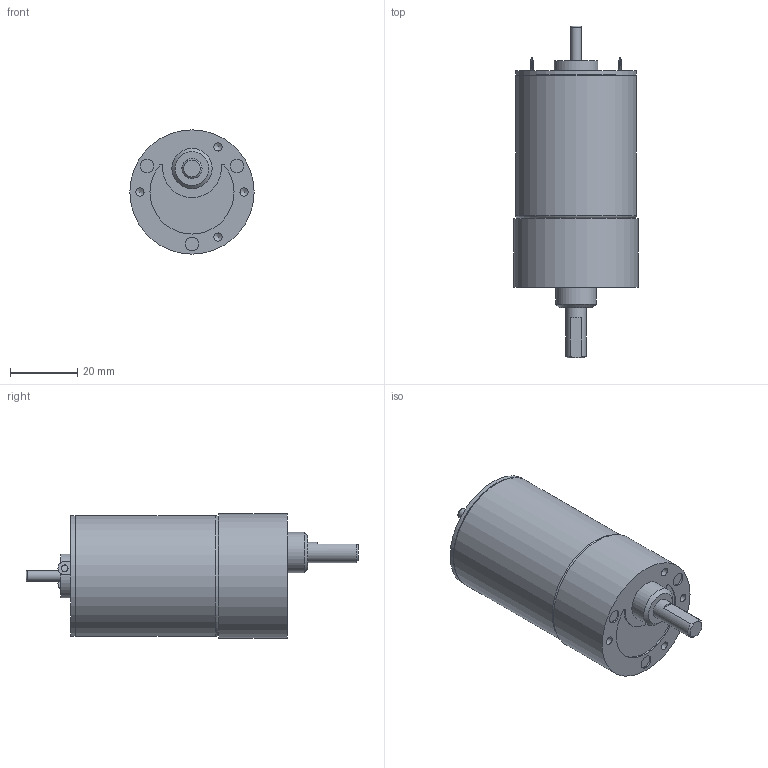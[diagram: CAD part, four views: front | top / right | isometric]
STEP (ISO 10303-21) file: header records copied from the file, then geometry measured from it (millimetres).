
FILE_DESCRIPTION((''),'2;1');
FILE_NAME('C:\Documents and Settings\SSEGAWA\デスクトップ\TP-3644L-KG-2.STP','2013-07-26T17:12:26',('SSEGAWA'),(''),'Autodesk Inventor 2010','Autodesk Inventor 2010','');
FILE_SCHEMA(('CONFIG_CONTROL_DESIGN'));
Length unit declared in the file: millimetre
Products named in the file (1): tp_3644l_kg_2_Shrinkwrap_1
Bounding box: 37 x 98.8 x 37 mm (x, y, z)
Volume: 68065.7 mm3; surface area: 10760.2 mm2
Topology: 1 solids, 4 shells, 67 faces, 141 edges, 94 vertices
Faces by surface type: plane 28, cylinder 19, bspline 16, torus 2, cone 2
Full cylindrical faces by diameter (mm): 3 x1, 3.175 x1, 3.5 x1, 4 x3, 6 x1, 12 x1, 13 x1, 35.6 x1, 36 x2, 37 x1
Entity records: 1793 total; most frequent: CARTESIAN_POINT 509, DIRECTION 253, ORIENTED_EDGE 180, EDGE_LOOP 115, AXIS2_PLACEMENT_3D 113, EDGE_CURVE 90, VERTEX_POINT 75, STYLED_ITEM 68
